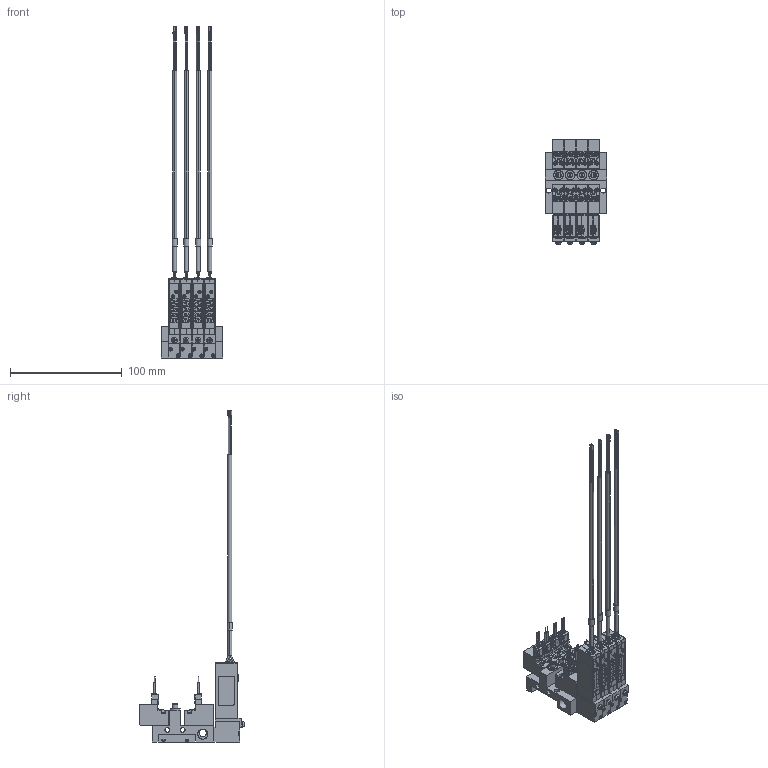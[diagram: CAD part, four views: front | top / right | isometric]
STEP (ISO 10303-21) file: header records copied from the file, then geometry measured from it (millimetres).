
FILE_DESCRIPTION(('STEP AP203'),'1');
FILE_NAME('3-NC-4EZ-M04-V9.stp','2025-05-09T01:03:59',(' '),(' '),'Spatial InterOp 3D',' ',' ');
FILE_SCHEMA(('CONFIG_CONTROL_DESIGN'));
Length unit declared in the file: millimetre
Products named in the file (134): PV1※3-NC-4EZ-M04-V9; BODY; PLATE; NEEDLE; BOLT; SOLENOID VALVE VOLTAGE PV; 42; 45; 48; 51; BRAKET(MPS-V9  PV용)NEW; BRAKET; MPS-V9AC.ics; __1; MPS-V9AC; MSBR-29_1; MSBR-28_1; MSBR-27_1; MSBR-26_1; MSBR-25_1; MSBR-24_1; MSBR-21_1; MSBR-7_1; MSBR-4_1; MSBR-1_1
Assembly tree (133 placements, depth 5):
  PV1※3-NC-4EZ-M04-V9
    BODY
    PLATE
    PLATE
    NEEDLE
    BOLT
    BOLT
    BOLT
    BOLT
    BOLT
    BOLT
    SOLENOID VALVE VOLTAGE PV
      42
      45
      48
      51
    SOLENOID VALVE VOLTAGE PV
      42
      45
      48
      51
    SOLENOID VALVE VOLTAGE PV
      42
      45
      48
      51
    NEEDLE
    SOLENOID VALVE VOLTAGE PV
      42
      45
      48
      51
    SOLENOID VALVE VOLTAGE PV
      42
      45
      48
      51
    NEEDLE
    SOLENOID VALVE VOLTAGE PV
      42
      45
      48
      51
    PLATE
    BOLT
    BOLT
    BOLT
    PLATE
    BOLT
    BOLT
    BOLT
    SOLENOID VALVE VOLTAGE PV
      42
      45
      48
      51
    NEEDLE
    SOLENOID VALVE VOLTAGE PV
      42
      45
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Bounding box: 55.5 x 94.29 x 297.25 mm (x, y, z)
Volume: 111067 mm3; surface area: 100723.4 mm2
Topology: 109 solids, 145 shells, 5229 faces, 14338 edges, 9717 vertices
Faces by surface type: plane 3992, cylinder 927, torus 132, bspline 76, cone 46, extrusion 40, sphere 16
Full cylindrical faces by diameter (mm): 2 x12, 2.3 x8, 2.5 x4, 3 x20, 4.2 x10, 4.5 x2, 5 x8, 6.5 x1, 8.797 x2, 9 x4
Entity records: 174122 total; most frequent: CARTESIAN_POINT 33403, ORIENTED_EDGE 27848, DIRECTION 27222, EDGE_CURVE 14076, VECTOR 10560, LINE 10520, VERTEX_POINT 9632, AXIS2_PLACEMENT_3D 8331
